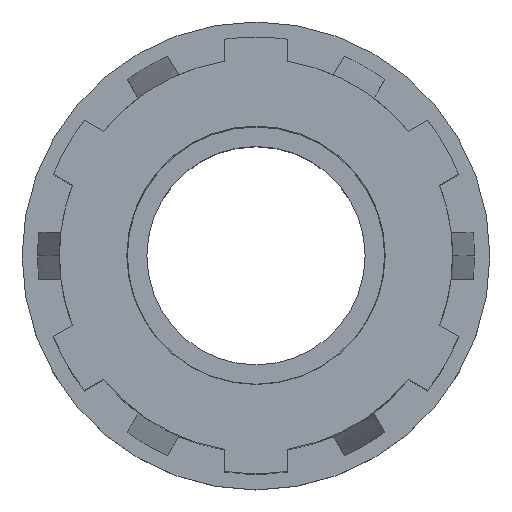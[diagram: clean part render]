
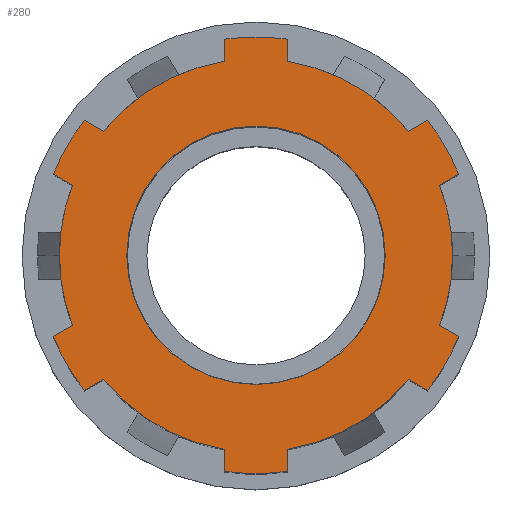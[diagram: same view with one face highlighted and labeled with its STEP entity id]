
A CAD part, top view. The second image highlights one B-rep face of the part: STEP entity #280.
In plain terms, the highlighted planar face has unit normal (0, 0, 1).
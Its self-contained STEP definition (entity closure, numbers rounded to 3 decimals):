
#280=ADVANCED_FACE('0:133',(#568,#569),#570,.T.);
#568=FACE_OUTER_BOUND('',#883,.T.);
#569=FACE_BOUND('',#884,.T.);
#570=PLANE('',#885);
#883=EDGE_LOOP('',(#1408,#1409,#1410,#1411,#1412,#1413,#1414,#1415,#1416,#1417,#1418,#1419,#1420,#1421,#1422,#1423,#1424,#1425,#1426,#1427,#1428,#1429,#1430,#1431,#1432,#1433));
#884=EDGE_LOOP('',(#1434,#1435));
#885=AXIS2_PLACEMENT_3D('',#1436,#1437,#1438);
#1408=ORIENTED_EDGE('',*,*,#2077,.F.);
#1409=ORIENTED_EDGE('',*,*,#2078,.T.);
#1410=ORIENTED_EDGE('',*,*,#2074,.T.);
#1411=ORIENTED_EDGE('',*,*,#2004,.T.);
#1412=ORIENTED_EDGE('',*,*,#2079,.F.);
#1413=ORIENTED_EDGE('',*,*,#2080,.T.);
#1414=ORIENTED_EDGE('',*,*,#2081,.T.);
#1415=ORIENTED_EDGE('',*,*,#1980,.T.);
#1416=ORIENTED_EDGE('',*,*,#1966,.F.);
#1417=ORIENTED_EDGE('',*,*,#2011,.T.);
#1418=ORIENTED_EDGE('',*,*,#2082,.T.);
#1419=ORIENTED_EDGE('',*,*,#1932,.T.);
#1420=ORIENTED_EDGE('',*,*,#1900,.T.);
#1421=ORIENTED_EDGE('',*,*,#2083,.F.);
#1422=ORIENTED_EDGE('',*,*,#2084,.T.);
#1423=ORIENTED_EDGE('',*,*,#1975,.T.);
#1424=ORIENTED_EDGE('',*,*,#2085,.T.);
#1425=ORIENTED_EDGE('',*,*,#2086,.F.);
#1426=ORIENTED_EDGE('',*,*,#2087,.T.);
#1427=ORIENTED_EDGE('',*,*,#2088,.T.);
#1428=ORIENTED_EDGE('',*,*,#2089,.T.);
#1429=ORIENTED_EDGE('',*,*,#2090,.F.);
#1430=ORIENTED_EDGE('',*,*,#2091,.T.);
#1431=ORIENTED_EDGE('',*,*,#2092,.T.);
#1432=ORIENTED_EDGE('',*,*,#1986,.T.);
#1433=ORIENTED_EDGE('',*,*,#1893,.T.);
#1434=ORIENTED_EDGE('',*,*,#1993,.T.);
#1435=ORIENTED_EDGE('',*,*,#2093,.T.);
#1436=CARTESIAN_POINT('',(522.864,476.726,25.0));
#1437=DIRECTION('',(0.0,0.0,1.0));
#1438=DIRECTION('',(1.0,-0.0,0.0));
#1893=EDGE_CURVE('',#2222,#2230,#2232,.T.);
#1900=EDGE_CURVE('',#2234,#2243,#2245,.T.);
#1932=EDGE_CURVE('',#2299,#2234,#2300,.T.);
#1966=EDGE_CURVE('',#2352,#2354,#2355,.T.);
#1975=EDGE_CURVE('',#2367,#2365,#2368,.T.);
#1980=EDGE_CURVE('',#2374,#2354,#2375,.T.);
#1986=EDGE_CURVE('',#2383,#2222,#2384,.T.);
#1993=EDGE_CURVE('',#2396,#2393,#2397,.F.);
#2004=EDGE_CURVE('',#2414,#2412,#2415,.T.);
#2011=EDGE_CURVE('',#2352,#2424,#2426,.F.);
#2074=EDGE_CURVE('',#2518,#2414,#2519,.T.);
#2077=EDGE_CURVE('',#2522,#2230,#2523,.T.);
#2078=EDGE_CURVE('',#2522,#2518,#2524,.F.);
#2079=EDGE_CURVE('',#2525,#2412,#2526,.T.);
#2080=EDGE_CURVE('',#2525,#2527,#2528,.F.);
#2081=EDGE_CURVE('',#2527,#2374,#2529,.T.);
#2082=EDGE_CURVE('',#2424,#2299,#2530,.T.);
#2083=EDGE_CURVE('',#2531,#2243,#2532,.T.);
#2084=EDGE_CURVE('',#2531,#2367,#2533,.F.);
#2085=EDGE_CURVE('',#2365,#2534,#2535,.T.);
#2086=EDGE_CURVE('',#2536,#2534,#2537,.T.);
#2087=EDGE_CURVE('',#2536,#2538,#2539,.F.);
#2088=EDGE_CURVE('',#2538,#2540,#2541,.T.);
#2089=EDGE_CURVE('',#2540,#2542,#2543,.T.);
#2090=EDGE_CURVE('',#2544,#2542,#2545,.T.);
#2091=EDGE_CURVE('',#2544,#2546,#2547,.F.);
#2092=EDGE_CURVE('',#2546,#2383,#2548,.T.);
#2093=EDGE_CURVE('',#2393,#2396,#2549,.F.);
#2222=VERTEX_POINT('',#2701);
#2230=VERTEX_POINT('',#2711);
#2232=CIRCLE('',#2714,12.6);
#2234=VERTEX_POINT('',#2716);
#2243=VERTEX_POINT('',#2727);
#2245=CIRCLE('',#2730,12.6);
#2299=VERTEX_POINT('',#2798);
#2300=CIRCLE('',#2799,12.6);
#2352=VERTEX_POINT('',#2859);
#2354=VERTEX_POINT('',#2862);
#2355=LINE('',#2863,#2864);
#2365=VERTEX_POINT('',#2876);
#2367=VERTEX_POINT('',#2879);
#2368=LINE('',#2880,#2881);
#2374=VERTEX_POINT('',#2889);
#2375=CIRCLE('',#2890,12.6);
#2383=VERTEX_POINT('',#2900);
#2384=CIRCLE('',#2901,12.6);
#2393=VERTEX_POINT('',#2912);
#2396=VERTEX_POINT('',#2916);
#2397=CIRCLE('',#2917,8.285);
#2412=VERTEX_POINT('',#2934);
#2414=VERTEX_POINT('',#2937);
#2415=CIRCLE('',#2938,12.6);
#2424=VERTEX_POINT('',#2949);
#2426=CIRCLE('',#2952,14.0);
#2518=VERTEX_POINT('',#3065);
#2519=LINE('',#3066,#3067);
#2522=VERTEX_POINT('',#3071);
#2523=LINE('',#3072,#3073);
#2524=CIRCLE('',#3074,14.0);
#2525=VERTEX_POINT('',#3075);
#2526=LINE('',#3076,#3077);
#2527=VERTEX_POINT('',#3078);
#2528=CIRCLE('',#3079,14.0);
#2529=LINE('',#3080,#3081);
#2530=LINE('',#3082,#3083);
#2531=VERTEX_POINT('',#3084);
#2532=LINE('',#3085,#3086);
#2533=CIRCLE('',#3087,14.0);
#2534=VERTEX_POINT('',#3088);
#2535=CIRCLE('',#3089,12.6);
#2536=VERTEX_POINT('',#3090);
#2537=LINE('',#3091,#3092);
#2538=VERTEX_POINT('',#3093);
#2539=CIRCLE('',#3094,14.0);
#2540=VERTEX_POINT('',#3095);
#2541=LINE('',#3096,#3097);
#2542=VERTEX_POINT('',#3098);
#2543=CIRCLE('',#3099,12.6);
#2544=VERTEX_POINT('',#3100);
#2545=LINE('',#3101,#3102);
#2546=VERTEX_POINT('',#3103);
#2547=CIRCLE('',#3104,14.0);
#2548=LINE('',#3105,#3106);
#2549=CIRCLE('',#3107,8.285);
#2701=CARTESIAN_POINT('',(510.264,476.726,25.0));
#2711=CARTESIAN_POINT('',(511.091,472.238,25.0));
#2714=AXIS2_PLACEMENT_3D('',#3296,#3297,#3298);
#2716=CARTESIAN_POINT('',(535.464,476.726,25.0));
#2727=CARTESIAN_POINT('',(534.638,481.215,25.0));
#2730=AXIS2_PLACEMENT_3D('',#3308,#3309,#3310);
#2798=CARTESIAN_POINT('',(534.638,472.238,25.0));
#2799=AXIS2_PLACEMENT_3D('',#3355,#3356,#3357);
#2859=CARTESIAN_POINT('',(533.864,468.066,25.0));
#2862=CARTESIAN_POINT('',(532.638,468.774,25.0));
#2863=CARTESIAN_POINT('',(533.427,468.319,25.0));
#2864=VECTOR('',#3418,0.);
#2876=CARTESIAN_POINT('',(532.638,484.679,25.0));
#2879=CARTESIAN_POINT('',(533.864,485.387,25.0));
#2880=CARTESIAN_POINT('',(533.427,485.134,25.0));
#2881=VECTOR('',#3428,0.);
#2889=CARTESIAN_POINT('',(524.864,464.286,25.0));
#2890=AXIS2_PLACEMENT_3D('',#3434,#3435,#3436);
#2900=CARTESIAN_POINT('',(511.091,481.215,25.0));
#2901=AXIS2_PLACEMENT_3D('',#3442,#3443,#3444);
#2912=CARTESIAN_POINT('',(514.579,476.726,25.0));
#2916=CARTESIAN_POINT('',(531.149,476.726,25.0));
#2917=AXIS2_PLACEMENT_3D('',#3454,#3455,#3456);
#2934=CARTESIAN_POINT('',(520.864,464.286,25.0));
#2937=CARTESIAN_POINT('',(513.091,468.774,25.0));
#2938=AXIS2_PLACEMENT_3D('',#3475,#3476,#3477);
#2949=CARTESIAN_POINT('',(535.864,471.53,25.0));
#2952=AXIS2_PLACEMENT_3D('',#3487,#3488,#3489);
#3065=CARTESIAN_POINT('',(511.864,468.066,25.0));
#3066=CARTESIAN_POINT('',(512.302,468.319,25.0));
#3067=VECTOR('',#3580,0.);
#3071=CARTESIAN_POINT('',(509.864,471.53,25.0));
#3072=CARTESIAN_POINT('',(510.302,471.783,25.0));
#3073=VECTOR('',#3582,0.);
#3074=AXIS2_PLACEMENT_3D('',#3583,#3584,#3585);
#3075=CARTESIAN_POINT('',(520.864,462.87,25.0));
#3076=CARTESIAN_POINT('',(520.864,463.375,25.0));
#3077=VECTOR('',#3586,0.);
#3078=CARTESIAN_POINT('',(524.864,462.87,25.0));
#3079=AXIS2_PLACEMENT_3D('',#3587,#3588,#3589);
#3080=CARTESIAN_POINT('',(524.864,463.375,25.0));
#3081=VECTOR('',#3590,0.);
#3082=CARTESIAN_POINT('',(535.427,471.783,25.0));
#3083=VECTOR('',#3591,0.);
#3084=CARTESIAN_POINT('',(535.864,481.923,25.0));
#3085=CARTESIAN_POINT('',(535.427,481.67,25.0));
#3086=VECTOR('',#3592,0.);
#3087=AXIS2_PLACEMENT_3D('',#3593,#3594,#3595);
#3088=CARTESIAN_POINT('',(524.864,489.167,25.0));
#3089=AXIS2_PLACEMENT_3D('',#3596,#3597,#3598);
#3090=CARTESIAN_POINT('',(524.864,490.583,25.0));
#3091=CARTESIAN_POINT('',(524.864,490.077,25.0));
#3092=VECTOR('',#3599,0.);
#3093=CARTESIAN_POINT('',(520.864,490.583,25.0));
#3094=AXIS2_PLACEMENT_3D('',#3600,#3601,#3602);
#3095=CARTESIAN_POINT('',(520.864,489.167,25.0));
#3096=CARTESIAN_POINT('',(520.864,490.077,25.0));
#3097=VECTOR('',#3603,0.);
#3098=CARTESIAN_POINT('',(513.091,484.679,25.0));
#3099=AXIS2_PLACEMENT_3D('',#3604,#3605,#3606);
#3100=CARTESIAN_POINT('',(511.864,485.387,25.0));
#3101=CARTESIAN_POINT('',(512.302,485.134,25.0));
#3102=VECTOR('',#3607,0.);
#3103=CARTESIAN_POINT('',(509.864,481.923,25.0));
#3104=AXIS2_PLACEMENT_3D('',#3608,#3609,#3610);
#3105=CARTESIAN_POINT('',(510.302,481.67,25.0));
#3106=VECTOR('',#3611,0.);
#3107=AXIS2_PLACEMENT_3D('',#3612,#3613,#3614);
#3296=CARTESIAN_POINT('',(522.864,476.726,25.0));
#3297=DIRECTION('',(0.0,0.0,1.0));
#3298=DIRECTION('',(1.0,0.0,0.0));
#3308=CARTESIAN_POINT('',(522.864,476.726,25.0));
#3309=DIRECTION('',(0.0,0.0,1.0));
#3310=DIRECTION('',(1.0,0.0,0.0));
#3355=CARTESIAN_POINT('',(522.864,476.726,25.0));
#3356=DIRECTION('',(0.0,0.0,1.0));
#3357=DIRECTION('',(1.0,0.0,0.0));
#3418=DIRECTION('',(-0.866,0.5,0.0));
#3428=DIRECTION('',(-0.866,-0.5,0.0));
#3434=CARTESIAN_POINT('',(522.864,476.726,25.0));
#3435=DIRECTION('',(0.0,0.0,1.0));
#3436=DIRECTION('',(1.0,0.0,0.0));
#3442=CARTESIAN_POINT('',(522.864,476.726,25.0));
#3443=DIRECTION('',(0.0,0.0,1.0));
#3444=DIRECTION('',(1.0,0.0,0.0));
#3454=CARTESIAN_POINT('',(522.864,476.726,25.0));
#3455=DIRECTION('',(0.0,0.0,1.0));
#3456=DIRECTION('',(1.0,0.0,0.0));
#3475=CARTESIAN_POINT('',(522.864,476.726,25.0));
#3476=DIRECTION('',(0.0,0.0,1.0));
#3477=DIRECTION('',(1.0,0.0,0.0));
#3487=CARTESIAN_POINT('',(522.864,476.726,25.0));
#3488=DIRECTION('',(0.0,0.0,-1.0));
#3489=DIRECTION('',(-1.0,0.0,0.0));
#3580=DIRECTION('',(0.866,0.5,0.0));
#3582=DIRECTION('',(0.866,0.5,0.0));
#3583=CARTESIAN_POINT('',(522.864,476.726,25.0));
#3584=DIRECTION('',(0.0,0.0,-1.0));
#3585=DIRECTION('',(-1.0,0.0,0.0));
#3586=DIRECTION('',(0.,1.,0.0));
#3587=CARTESIAN_POINT('',(522.864,476.726,25.0));
#3588=DIRECTION('',(0.0,0.0,-1.0));
#3589=DIRECTION('',(-1.0,0.0,0.0));
#3590=DIRECTION('',(0.,1.,0.0));
#3591=DIRECTION('',(-0.866,0.5,0.0));
#3592=DIRECTION('',(-0.866,-0.5,0.0));
#3593=CARTESIAN_POINT('',(522.864,476.726,25.0));
#3594=DIRECTION('',(0.0,0.0,-1.0));
#3595=DIRECTION('',(-1.0,0.0,0.0));
#3596=CARTESIAN_POINT('',(522.864,476.726,25.0));
#3597=DIRECTION('',(0.0,0.0,1.0));
#3598=DIRECTION('',(1.0,0.0,0.0));
#3599=DIRECTION('',(0.,-1.,0.0));
#3600=CARTESIAN_POINT('',(522.864,476.726,25.0));
#3601=DIRECTION('',(0.0,0.0,-1.0));
#3602=DIRECTION('',(-1.0,0.0,0.0));
#3603=DIRECTION('',(0.,-1.,0.0));
#3604=CARTESIAN_POINT('',(522.864,476.726,25.0));
#3605=DIRECTION('',(0.0,0.0,1.0));
#3606=DIRECTION('',(1.0,0.0,0.0));
#3607=DIRECTION('',(0.866,-0.5,0.0));
#3608=CARTESIAN_POINT('',(522.864,476.726,25.0));
#3609=DIRECTION('',(0.0,0.0,-1.0));
#3610=DIRECTION('',(-1.0,0.0,0.0));
#3611=DIRECTION('',(0.866,-0.5,0.0));
#3612=CARTESIAN_POINT('',(522.864,476.726,25.0));
#3613=DIRECTION('',(0.0,0.0,1.0));
#3614=DIRECTION('',(1.0,0.0,0.0));
